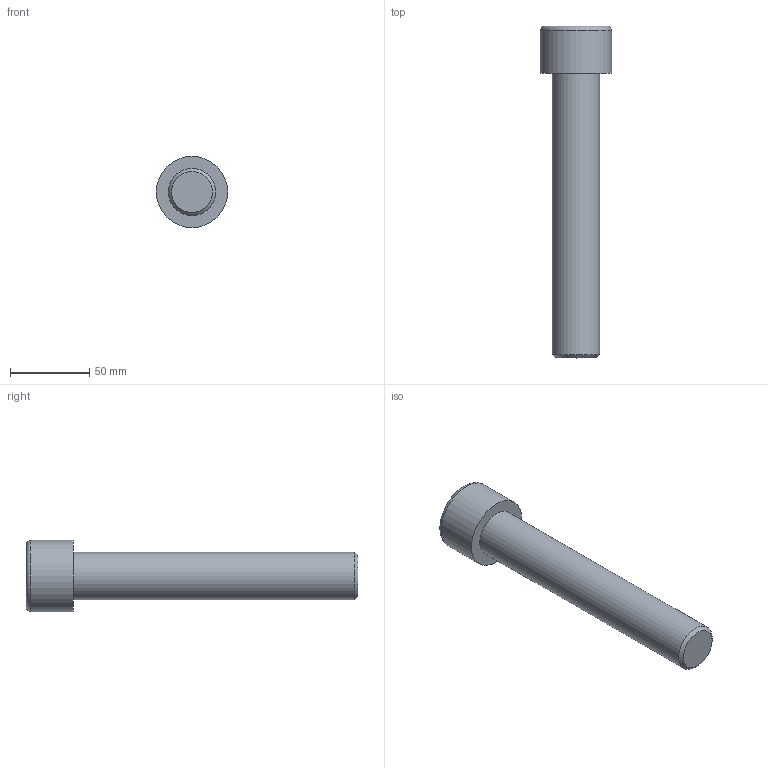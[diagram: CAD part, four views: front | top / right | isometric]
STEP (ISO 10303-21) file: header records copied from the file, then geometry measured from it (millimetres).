
FILE_DESCRIPTION(/* description */ (''),/* implementation_level */ '2;1');
FILE_NAME(/* name */ 'C:\Users\D\Documents\Inventor\各種小物\JIS\JIS B 1176 六角穴付きボルト\M30x180.stp',/* time_stamp */ '2022-05-09T19:01:45+09:00',/* author */ ('D'),/* organization */ (''),/* preprocessor_version */ 'ST-DEVELOPER v18',/* originating_system */ 'Autodesk Inventor 2020',/* authorisation */ '');
FILE_SCHEMA (('AUTOMOTIVE_DESIGN { 1 0 10303 214 3 1 1 }'));
Length unit declared in the file: millimetre
Products named in the file (1): M1.6x2.5
Bounding box: 45 x 210 x 45 mm (x, y, z)
Volume: 166773.2 mm3; surface area: 25371.2 mm2
Topology: 1 solids, 1 shells, 14 faces, 33 edges, 22 vertices
Faces by surface type: plane 9, cone 2, cylinder 2, torus 1
Full cylindrical faces by diameter (mm): 30 x1, 45 x1
Entity records: 435 total; most frequent: CARTESIAN_POINT 83, ORIENTED_EDGE 64, DIRECTION 64, EDGE_CURVE 32, AXIS2_PLACEMENT_3D 24, VERTEX_POINT 22, EDGE_LOOP 16, LINE 16
